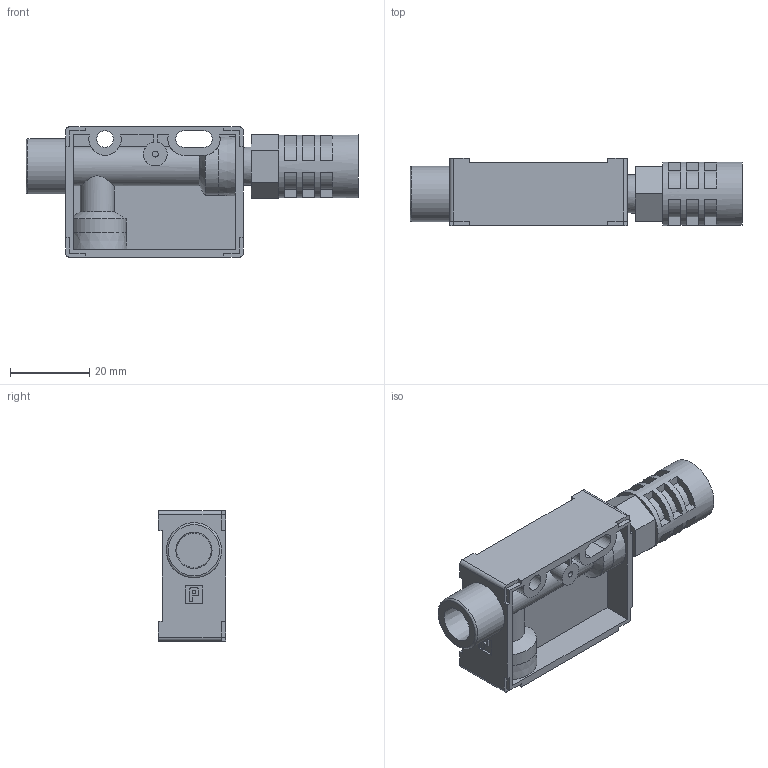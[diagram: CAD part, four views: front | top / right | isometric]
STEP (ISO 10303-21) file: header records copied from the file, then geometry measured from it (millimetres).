
FILE_DESCRIPTION(('STEP AP203'),'1');
FILE_NAME('_3D.stp','2022-12-22T08:43:12',(' '),(' '),'Spatial InterOp 3D',' ',' ');
FILE_SCHEMA(('CONFIG_CONTROL_DESIGN'));
Length unit declared in the file: millimetre
Products named in the file (3): 본체; BMSS-01-LN
Assembly tree (2 placements, depth 2):
  (unnamed)
    본체
    BMSS-01-LN
Bounding box: 84 x 17 x 33 mm (x, y, z)
Volume: 16740.5 mm3; surface area: 12272 mm2
Topology: 2 solids, 2 shells, 266 faces, 684 edges, 451 vertices
Faces by surface type: plane 197, cylinder 55, cone 13, torus 1
Full cylindrical faces by diameter (mm): 1.5 x2, 4.2 x1, 4.5 x1, 8.741 x3, 14 x1, 16 x1
Entity records: 8421 total; most frequent: CARTESIAN_POINT 1772, ORIENTED_EDGE 1332, DIRECTION 1330, EDGE_CURVE 666, LINE 476, VECTOR 476, VERTEX_POINT 448, AXIS2_PLACEMENT_3D 427
